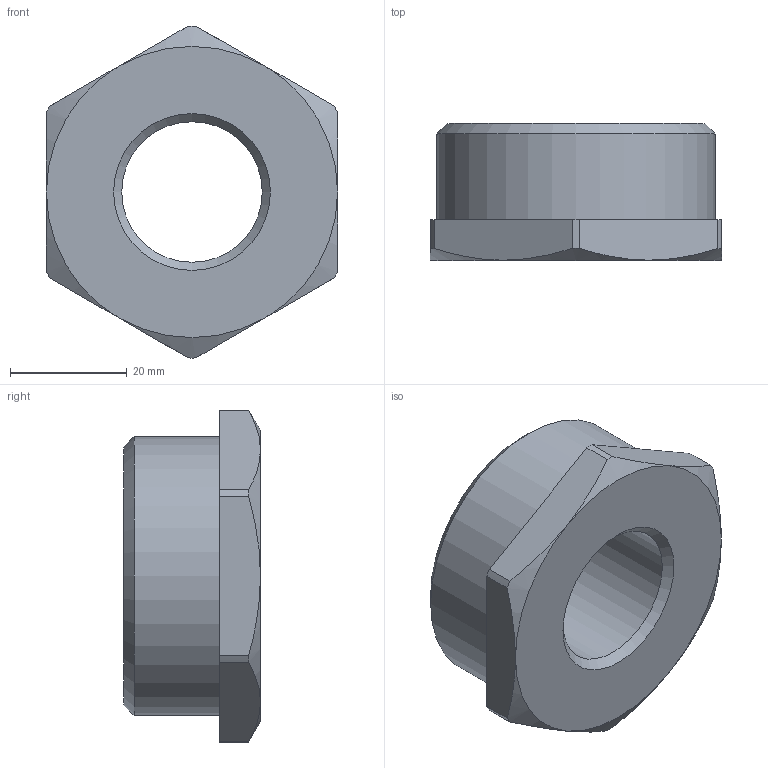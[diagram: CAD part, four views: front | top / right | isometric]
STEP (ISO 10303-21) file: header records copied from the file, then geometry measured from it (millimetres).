
FILE_DESCRIPTION(('STEP AP203'), '1');
FILE_NAME('ÂÐ.753128.036 - VTr.581.N.0805 Ôèò. ðåçüá', '2024-07-04T13:29:59', ('Boss'), (''), 'C3D Converter', 'C3D Toolkit', '');
FILE_SCHEMA(('CONFIG_CONTROL_DESIGN'));
Length unit declared in the file: millimetre
Products named in the file (1): ВР.753128.036
Bounding box: 50 x 23.5 x 57 mm (x, y, z)
Volume: 33498.6 mm3; surface area: 8496 mm2
Topology: 1 solids, 1 shells, 26 faces, 60 edges, 37 vertices
Faces by surface type: plane 9, cone 9, cylinder 8
Full cylindrical faces by diameter (mm): 24.118 x1, 47.803 x1
Entity records: 965 total; most frequent: CARTESIAN_POINT 399, DIRECTION 114, ORIENTED_EDGE 102, EDGE_CURVE 51, AXIS2_PLACEMENT_3D 48, VERTEX_POINT 35, EDGE_LOOP 32, ADVANCED_FACE 24
